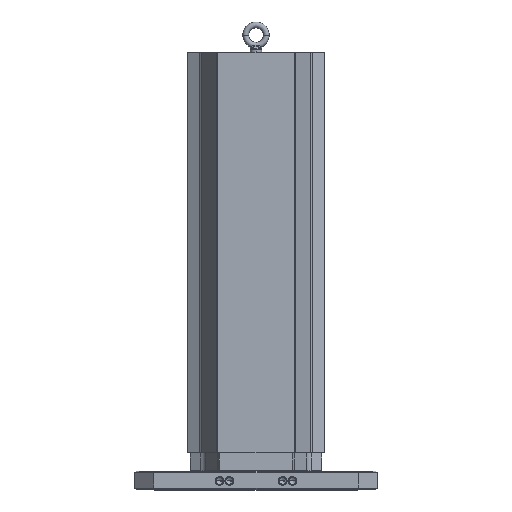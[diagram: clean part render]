
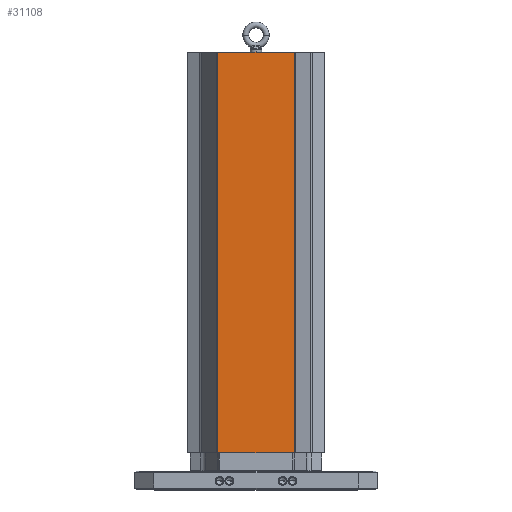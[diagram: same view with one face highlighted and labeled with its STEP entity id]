
A CAD part, top view. The second image highlights one B-rep face of the part: STEP entity #31108.
In plain terms, the highlighted planar face has unit normal (0, 0, 1) as drawn and (0, 0, -1) by its records, which use the part's own axes.
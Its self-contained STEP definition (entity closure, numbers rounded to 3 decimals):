
#844 = ORIENTED_EDGE ( 'NONE', *, *, #21118, .T. ) ;
#1033 = DIRECTION ( 'NONE',  ( 0., 0., -1. ) ) ;
#1295 = CARTESIAN_POINT ( 'NONE',  ( 78.486, 1053.126, -116.992 ) ) ;
#2098 = LINE ( 'NONE', #25985, #4097 ) ;
#3103 = FACE_OUTER_BOUND ( 'NONE', #23487, .T. ) ;
#3802 = DIRECTION ( 'NONE',  ( -1., 0., 0. ) ) ;
#4097 = VECTOR ( 'NONE', #20976, 1000. ) ;
#6120 = VERTEX_POINT ( 'NONE', #15999 ) ;
#6180 = CARTESIAN_POINT ( 'NONE',  ( -79.756, 862., -116.992 ) ) ;
#10368 = EDGE_CURVE ( 'NONE', #6120, #28188, #25171, .T. ) ;
#10497 = EDGE_CURVE ( 'NONE', #16311, #28188, #18075, .T. ) ;
#11197 = DIRECTION ( 'NONE',  ( 1., 0., 0. ) ) ;
#13437 = LINE ( 'NONE', #6180, #30259 ) ;
#15999 = CARTESIAN_POINT ( 'NONE',  ( 78.486, 862., -116.992 ) ) ;
#16311 = VERTEX_POINT ( 'NONE', #32919 ) ;
#17065 = EDGE_CURVE ( 'NONE', #16311, #23164, #2098, .T. ) ;
#18075 = LINE ( 'NONE', #28778, #31291 ) ;
#18596 = AXIS2_PLACEMENT_3D ( 'NONE', #24729, #1033, #3802 ) ;
#19033 = PLANE ( 'NONE',  #18596 ) ;
#19759 = CARTESIAN_POINT ( 'NONE',  ( -78.486, 862., -116.992 ) ) ;
#20456 = ORIENTED_EDGE ( 'NONE', *, *, #10368, .T. ) ;
#20976 = DIRECTION ( 'NONE',  ( 0., 1., 0. ) ) ;
#20986 = ORIENTED_EDGE ( 'NONE', *, *, #17065, .T. ) ;
#21118 = EDGE_CURVE ( 'NONE', #23164, #6120, #13437, .T. ) ;
#22494 = ORIENTED_EDGE ( 'NONE', *, *, #10497, .F. ) ;
#23164 = VERTEX_POINT ( 'NONE', #19759 ) ;
#23487 = EDGE_LOOP ( 'NONE', ( #844, #20456, #22494, #20986 ) ) ;
#24729 = CARTESIAN_POINT ( 'NONE',  ( -79.756, 1053.126, -116.992 ) ) ;
#25171 = LINE ( 'NONE', #1295, #28552 ) ;
#25985 = CARTESIAN_POINT ( 'NONE',  ( -78.486, 1053.126, -116.992 ) ) ;
#28188 = VERTEX_POINT ( 'NONE', #30534 ) ;
#28552 = VECTOR ( 'NONE', #29997, 1000. ) ;
#28778 = CARTESIAN_POINT ( 'NONE',  ( -79.756, 38.1, -116.992 ) ) ;
#29997 = DIRECTION ( 'NONE',  ( 0., -1., 0. ) ) ;
#30259 = VECTOR ( 'NONE', #11197, 1000. ) ;
#30534 = CARTESIAN_POINT ( 'NONE',  ( 78.486, 38.1, -116.992 ) ) ;
#31108 = ADVANCED_FACE ( 'NONE', ( #3103 ), #19033, .T. ) ;
#31291 = VECTOR ( 'NONE', #33969, 1000. ) ;
#32919 = CARTESIAN_POINT ( 'NONE',  ( -78.486, 38.1, -116.992 ) ) ;
#33969 = DIRECTION ( 'NONE',  ( 1., 0., 0. ) ) ;
